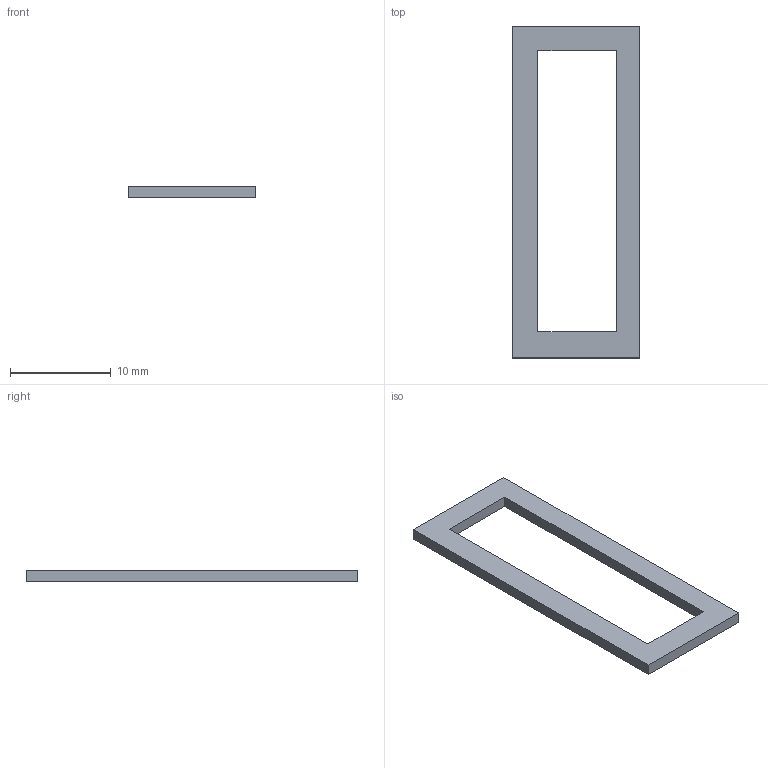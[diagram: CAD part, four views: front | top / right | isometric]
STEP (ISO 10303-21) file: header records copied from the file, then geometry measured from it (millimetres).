
FILE_DESCRIPTION (( 'STEP AP214' ), '1' );
FILE_NAME ('Visualizer.STEP', '2026-07-16T05:39:25', ( '' ), ( '' ), 'SwSTEP 2.0', 'SolidWorks 2025', '' );
FILE_SCHEMA (( 'AUTOMOTIVE_DESIGN' ));
Length unit declared in the file: inch
Products named in the file (1): Visualizer
Bounding box: 12.7 x 33 x 1.14 mm (x, y, z)
Volume: 228.8 mm3; surface area: 586.7 mm2
Topology: 1 solids, 1 shells, 10 faces, 24 edges, 16 vertices
Faces by surface type: plane 10
Entity records: 319 total; most frequent: CARTESIAN_POINT 51, ORIENTED_EDGE 48, DIRECTION 46, EDGE_CURVE 24, VECTOR 24, LINE 24, VERTEX_POINT 16, EDGE_LOOP 12
